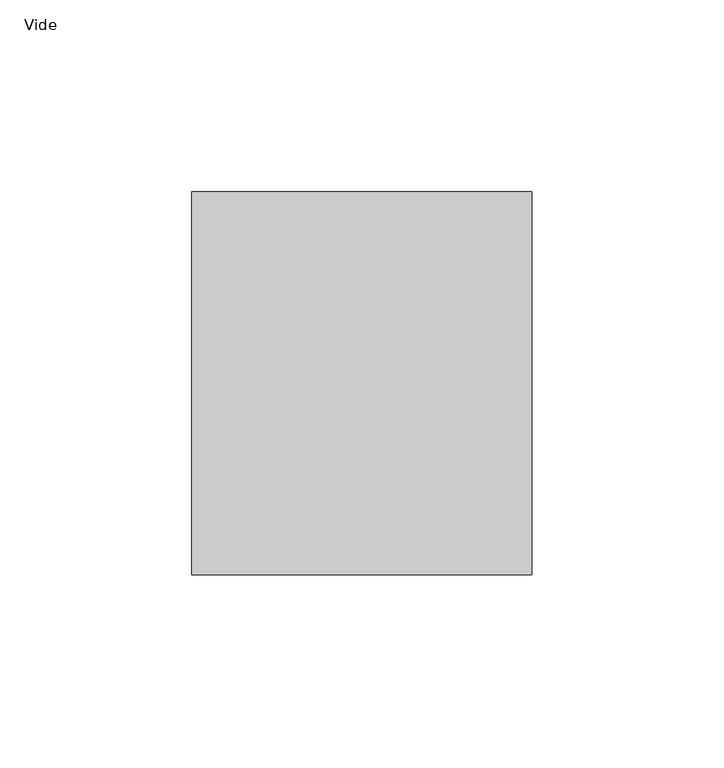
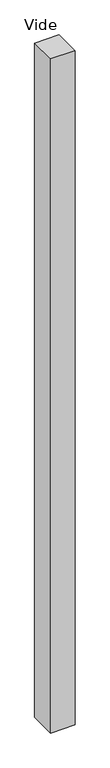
"""IFC4 building model written with IfcOpenShell, lengths in millimetres: plate geometry, Panneau système vide : Vide."""

from ifc_helpers import new_model, si_unit, origin, origin_with_axes, place, context, project, spatial, polyline, outline, extrude, source, transform, mapped, element, save


def vide_78e3737e(model_context):
    return source(origin(), model_context, "Body", "SweptSolid", [
        extrude(outline(polyline([(44.425172, 50.0), (-44.425172, 50.0), (-44.425172, 150.0), (44.425172, 150.0), (44.425172, 50.0)])), origin_with_axes(), (0.0, 0.0, 1.0), 2588.190451),
    ])


if __name__ == "__main__":
    model = new_model("IFC4")
    model_context = context("Model", 3, world=origin())
    ifc_project = project(units=[si_unit("LENGTHUNIT", "METRE", prefix="MILLI")], contexts=[model_context])
    site = spatial("IfcSite", under=ifc_project)
    building = spatial("IfcBuilding", under=site)
    placement = place(None, origin())
    vide_shape = vide_78e3737e(model_context)
    element("IfcPlate", 1, ObjectType="Panneau système vide : Vide", at=placement, inside=building, context=model_context, shape_type="MappedRepresentation", body=[
        mapped(vide_shape, transform((0.0, 0.0, 0.0), x_axis=(1.0, 0.0, 0.0), y_axis=(0.0, 1.0, 0.0), z_axis=(0.0, 0.0, 1.0))),
    ])
    save(model, "model.ifc")
